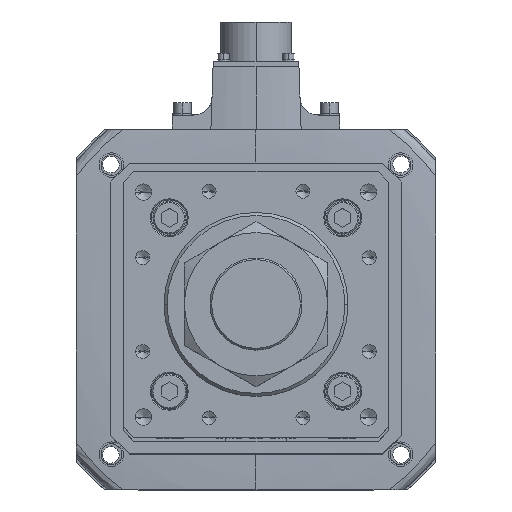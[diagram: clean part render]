
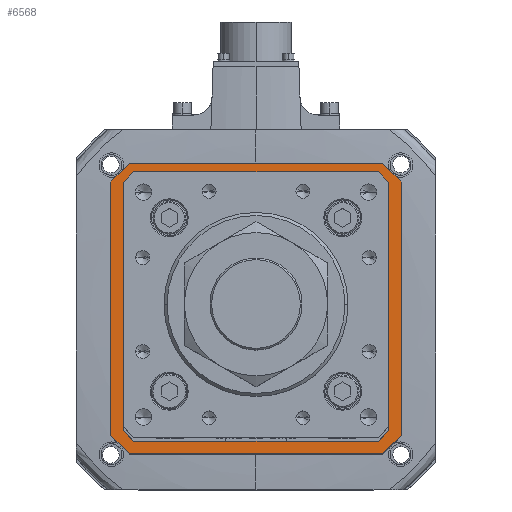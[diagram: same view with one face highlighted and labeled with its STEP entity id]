
A CAD part, top view. The second image highlights one B-rep face of the part: STEP entity #6568.
In plain terms, the highlighted planar face has unit normal (0, 0, 1).
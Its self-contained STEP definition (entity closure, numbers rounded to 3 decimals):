
#29 = EDGE_CURVE ( 'NONE', #53157, #32553, #20245, .T. ) ;
#488 = CARTESIAN_POINT ( 'NONE',  ( 0., -63., -142. ) ) ;
#530 = DIRECTION ( 'NONE',  ( 0.707, -0.707, 0. ) ) ;
#554 = FACE_OUTER_BOUND ( 'NONE', #54934, .T. ) ;
#606 = LINE ( 'NONE', #16679, #25982 ) ;
#968 = VERTEX_POINT ( 'NONE', #1075 ) ;
#1073 = LINE ( 'NONE', #19080, #44449 ) ;
#1075 = CARTESIAN_POINT ( 'NONE',  ( 62., 71., -142. ) ) ;
#1999 = LINE ( 'NONE', #38769, #51992 ) ;
#3763 = ORIENTED_EDGE ( 'NONE', *, *, #29, .F. ) ;
#3795 = VECTOR ( 'NONE', #5070, 1000. ) ;
#5070 = DIRECTION ( 'NONE',  ( 1., 0., 0. ) ) ;
#5081 = EDGE_CURVE ( 'NONE', #13996, #26267, #20012, .T. ) ;
#5165 = CARTESIAN_POINT ( 'NONE',  ( -62., -71., -142. ) ) ;
#5411 = ORIENTED_EDGE ( 'NONE', *, *, #41552, .F. ) ;
#5423 = CARTESIAN_POINT ( 'NONE',  ( 0., 63., -142. ) ) ;
#5849 = CARTESIAN_POINT ( 'NONE',  ( 71., 62., -142. ) ) ;
#6021 = VECTOR ( 'NONE', #38771, 1000. ) ;
#6568 = ADVANCED_FACE ( 'NONE', ( #38549, #554 ), #41119, .T. ) ;
#7020 = CARTESIAN_POINT ( 'NONE',  ( -60.896, 60.896, -142. ) ) ;
#7052 = CARTESIAN_POINT ( 'NONE',  ( 71., -62., -142. ) ) ;
#7060 = ORIENTED_EDGE ( 'NONE', *, *, #7450, .T. ) ;
#7303 = VECTOR ( 'NONE', #19913, 1000. ) ;
#7450 = EDGE_CURVE ( 'NONE', #23934, #35237, #33143, .T. ) ;
#7581 = VERTEX_POINT ( 'NONE', #5165 ) ;
#8131 = VERTEX_POINT ( 'NONE', #43326 ) ;
#8476 = VECTOR ( 'NONE', #26220, 1000. ) ;
#9301 = LINE ( 'NONE', #18953, #24685 ) ;
#10888 = DIRECTION ( 'NONE',  ( 0.707, -0.707, 0. ) ) ;
#11109 = VECTOR ( 'NONE', #50290, 1000. ) ;
#11176 = LINE ( 'NONE', #34591, #8476 ) ;
#12161 = ORIENTED_EDGE ( 'NONE', *, *, #44711, .T. ) ;
#12297 = AXIS2_PLACEMENT_3D ( 'NONE', #24693, #20002, #46151 ) ;
#12522 = EDGE_CURVE ( 'NONE', #42806, #13996, #1999, .T. ) ;
#13848 = EDGE_CURVE ( 'NONE', #8131, #33706, #41958, .T. ) ;
#13996 = VERTEX_POINT ( 'NONE', #20207 ) ;
#14436 = CARTESIAN_POINT ( 'NONE',  ( -63., 0., -142. ) ) ;
#15282 = CARTESIAN_POINT ( 'NONE',  ( 60.896, -60.896, -142. ) ) ;
#15289 = EDGE_CURVE ( 'NONE', #32553, #35705, #11176, .T. ) ;
#15470 = ORIENTED_EDGE ( 'NONE', *, *, #24228, .F. ) ;
#15827 = ORIENTED_EDGE ( 'NONE', *, *, #22032, .T. ) ;
#15974 = CARTESIAN_POINT ( 'NONE',  ( -63., -58.793, -142. ) ) ;
#16679 = CARTESIAN_POINT ( 'NONE',  ( -62., -71., -142. ) ) ;
#17110 = ORIENTED_EDGE ( 'NONE', *, *, #51139, .F. ) ;
#18347 = CARTESIAN_POINT ( 'NONE',  ( 71., -62., -142. ) ) ;
#18953 = CARTESIAN_POINT ( 'NONE',  ( -60.896, -60.896, -142. ) ) ;
#19080 = CARTESIAN_POINT ( 'NONE',  ( 71., 62., -142. ) ) ;
#19913 = DIRECTION ( 'NONE',  ( -0.707, -0.707, 0. ) ) ;
#20002 = DIRECTION ( 'NONE',  ( 0., 0., 1. ) ) ;
#20012 = LINE ( 'NONE', #26245, #38711 ) ;
#20051 = VECTOR ( 'NONE', #52053, 1000. ) ;
#20207 = CARTESIAN_POINT ( 'NONE',  ( 63., 58.793, -142. ) ) ;
#20245 = LINE ( 'NONE', #23683, #41647 ) ;
#20526 = VERTEX_POINT ( 'NONE', #7052 ) ;
#20621 = CARTESIAN_POINT ( 'NONE',  ( 71., 62., -142. ) ) ;
#21718 = EDGE_LOOP ( 'NONE', ( #44072, #12161, #7060, #37469, #15827, #31323, #40585, #38870 ) ) ;
#22032 = EDGE_CURVE ( 'NONE', #25736, #8131, #43409, .T. ) ;
#23208 = DIRECTION ( 'NONE',  ( -0.707, -0.707, 0. ) ) ;
#23255 = DIRECTION ( 'NONE',  ( 0.707, 0.707, 0. ) ) ;
#23683 = CARTESIAN_POINT ( 'NONE',  ( -71., 62., -142. ) ) ;
#23795 = CARTESIAN_POINT ( 'NONE',  ( 58.793, -63., -142. ) ) ;
#23934 = VERTEX_POINT ( 'NONE', #23795 ) ;
#24228 = EDGE_CURVE ( 'NONE', #7581, #53157, #606, .T. ) ;
#24503 = ORIENTED_EDGE ( 'NONE', *, *, #32500, .F. ) ;
#24685 = VECTOR ( 'NONE', #35717, 1000. ) ;
#24693 = CARTESIAN_POINT ( 'NONE',  ( 0., 0., -142. ) ) ;
#24835 = VECTOR ( 'NONE', #23208, 1000. ) ;
#25736 = VERTEX_POINT ( 'NONE', #15974 ) ;
#25870 = EDGE_CURVE ( 'NONE', #39865, #20526, #49788, .T. ) ;
#25982 = VECTOR ( 'NONE', #33818, 1000. ) ;
#26220 = DIRECTION ( 'NONE',  ( 0.707, 0.707, 0. ) ) ;
#26245 = CARTESIAN_POINT ( 'NONE',  ( 63., 0., -142. ) ) ;
#26267 = VERTEX_POINT ( 'NONE', #28048 ) ;
#26541 = CARTESIAN_POINT ( 'NONE',  ( -58.793, 63., -142. ) ) ;
#27258 = DIRECTION ( 'NONE',  ( 1., 0., 0. ) ) ;
#28048 = CARTESIAN_POINT ( 'NONE',  ( 63., -58.793, -142. ) ) ;
#29991 = LINE ( 'NONE', #15282, #7303 ) ;
#30375 = CARTESIAN_POINT ( 'NONE',  ( -71., -62., -142. ) ) ;
#30465 = LINE ( 'NONE', #5423, #3795 ) ;
#31323 = ORIENTED_EDGE ( 'NONE', *, *, #13848, .T. ) ;
#32500 = EDGE_CURVE ( 'NONE', #35705, #968, #33159, .T. ) ;
#32553 = VERTEX_POINT ( 'NONE', #32809 ) ;
#32556 = VECTOR ( 'NONE', #23255, 1000. ) ;
#32775 = LINE ( 'NONE', #18347, #24835 ) ;
#32809 = CARTESIAN_POINT ( 'NONE',  ( -71., 62., -142. ) ) ;
#33143 = LINE ( 'NONE', #488, #37163 ) ;
#33159 = LINE ( 'NONE', #39373, #50507 ) ;
#33706 = VERTEX_POINT ( 'NONE', #26541 ) ;
#33818 = DIRECTION ( 'NONE',  ( -0.707, 0.707, 0. ) ) ;
#34591 = CARTESIAN_POINT ( 'NONE',  ( -62., 71., -142. ) ) ;
#34703 = LINE ( 'NONE', #46639, #6021 ) ;
#34804 = VERTEX_POINT ( 'NONE', #53001 ) ;
#34817 = CARTESIAN_POINT ( 'NONE',  ( -62., 71., -142. ) ) ;
#35237 = VERTEX_POINT ( 'NONE', #35614 ) ;
#35614 = CARTESIAN_POINT ( 'NONE',  ( -58.793, -63., -142. ) ) ;
#35705 = VERTEX_POINT ( 'NONE', #34817 ) ;
#35717 = DIRECTION ( 'NONE',  ( -0.707, 0.707, 0. ) ) ;
#37163 = VECTOR ( 'NONE', #42838, 1000. ) ;
#37469 = ORIENTED_EDGE ( 'NONE', *, *, #39243, .T. ) ;
#38549 = FACE_BOUND ( 'NONE', #21718, .T. ) ;
#38711 = VECTOR ( 'NONE', #47685, 1000. ) ;
#38769 = CARTESIAN_POINT ( 'NONE',  ( 60.896, 60.896, -142. ) ) ;
#38771 = DIRECTION ( 'NONE',  ( -1., 0., 0. ) ) ;
#38870 = ORIENTED_EDGE ( 'NONE', *, *, #12522, .T. ) ;
#39243 = EDGE_CURVE ( 'NONE', #35237, #25736, #9301, .T. ) ;
#39373 = CARTESIAN_POINT ( 'NONE',  ( 62., 71., -142. ) ) ;
#39865 = VERTEX_POINT ( 'NONE', #5849 ) ;
#40585 = ORIENTED_EDGE ( 'NONE', *, *, #46752, .T. ) ;
#40650 = DIRECTION ( 'NONE',  ( 0., 1., 0. ) ) ;
#41119 = PLANE ( 'NONE',  #12297 ) ;
#41552 = EDGE_CURVE ( 'NONE', #968, #39865, #1073, .T. ) ;
#41647 = VECTOR ( 'NONE', #40650, 1000. ) ;
#41958 = LINE ( 'NONE', #7020, #32556 ) ;
#42193 = ORIENTED_EDGE ( 'NONE', *, *, #52087, .F. ) ;
#42806 = VERTEX_POINT ( 'NONE', #46474 ) ;
#42838 = DIRECTION ( 'NONE',  ( -1., 0., 0. ) ) ;
#43326 = CARTESIAN_POINT ( 'NONE',  ( -63., 58.793, -142. ) ) ;
#43409 = LINE ( 'NONE', #14436, #20051 ) ;
#44072 = ORIENTED_EDGE ( 'NONE', *, *, #5081, .T. ) ;
#44449 = VECTOR ( 'NONE', #10888, 1000. ) ;
#44711 = EDGE_CURVE ( 'NONE', #26267, #23934, #29991, .T. ) ;
#46151 = DIRECTION ( 'NONE',  ( 1., 0., 0. ) ) ;
#46474 = CARTESIAN_POINT ( 'NONE',  ( 58.793, 63., -142. ) ) ;
#46639 = CARTESIAN_POINT ( 'NONE',  ( 62., -71., -142. ) ) ;
#46752 = EDGE_CURVE ( 'NONE', #33706, #42806, #30465, .T. ) ;
#47685 = DIRECTION ( 'NONE',  ( 0., -1., 0. ) ) ;
#48987 = ORIENTED_EDGE ( 'NONE', *, *, #15289, .F. ) ;
#49788 = LINE ( 'NONE', #20621, #11109 ) ;
#50290 = DIRECTION ( 'NONE',  ( 0., -1., 0. ) ) ;
#50507 = VECTOR ( 'NONE', #27258, 1000. ) ;
#51139 = EDGE_CURVE ( 'NONE', #20526, #34804, #32775, .T. ) ;
#51438 = ORIENTED_EDGE ( 'NONE', *, *, #25870, .F. ) ;
#51992 = VECTOR ( 'NONE', #530, 1000. ) ;
#52053 = DIRECTION ( 'NONE',  ( 0., 1., 0. ) ) ;
#52087 = EDGE_CURVE ( 'NONE', #34804, #7581, #34703, .T. ) ;
#53001 = CARTESIAN_POINT ( 'NONE',  ( 62., -71., -142. ) ) ;
#53157 = VERTEX_POINT ( 'NONE', #30375 ) ;
#54934 = EDGE_LOOP ( 'NONE', ( #24503, #48987, #3763, #15470, #42193, #17110, #51438, #5411 ) ) ;
